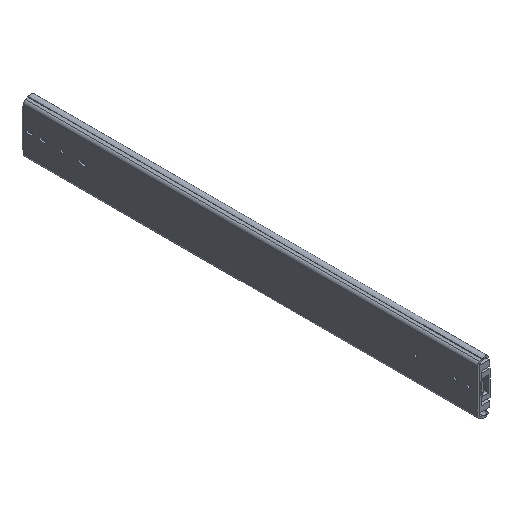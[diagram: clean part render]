
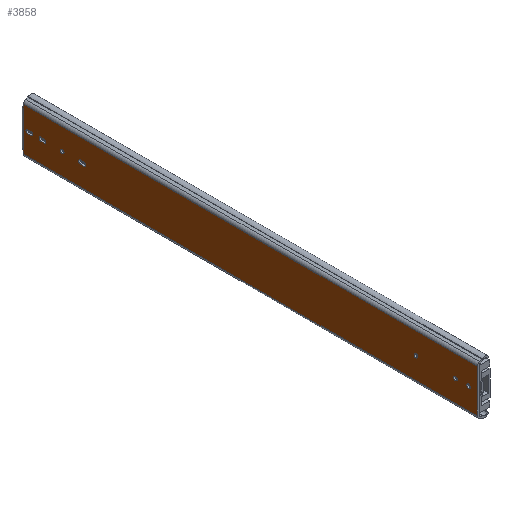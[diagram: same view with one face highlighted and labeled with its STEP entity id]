
A CAD part, isometric view. The second image highlights one B-rep face of the part: STEP entity #3858.
In plain terms, the highlighted planar face has unit normal (-1, 0, 0).
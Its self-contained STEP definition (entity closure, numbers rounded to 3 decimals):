
#343=LINE('',#6565,#726);
#350=LINE('',#6594,#733);
#351=LINE('',#6599,#734);
#366=LINE('',#6646,#749);
#373=LINE('',#6671,#756);
#383=LINE('',#6700,#766);
#386=LINE('',#6722,#769);
#390=LINE('',#6734,#773);
#394=LINE('',#6750,#777);
#401=LINE('',#6769,#784);
#404=LINE('',#6778,#787);
#410=LINE('',#6809,#793);
#416=LINE('',#6825,#799);
#417=LINE('',#6827,#800);
#726=VECTOR('',#5431,1000.);
#733=VECTOR('',#5460,1000.);
#734=VECTOR('',#5465,1000.);
#749=VECTOR('',#5510,1000.);
#756=VECTOR('',#5535,1000.);
#766=VECTOR('',#5567,1000.);
#769=VECTOR('',#5590,1000.);
#773=VECTOR('',#5602,1000.);
#777=VECTOR('',#5620,1000.);
#784=VECTOR('',#5635,1000.);
#787=VECTOR('',#5646,1000.);
#793=VECTOR('',#5672,1000.);
#799=VECTOR('',#5692,1000.);
#800=VECTOR('',#5695,1000.);
#907=PLANE('',#4605);
#1961=ORIENTED_EDGE('',*,*,#2562,.F.);
#1962=ORIENTED_EDGE('',*,*,#2521,.T.);
#1963=ORIENTED_EDGE('',*,*,#2525,.F.);
#1964=ORIENTED_EDGE('',*,*,#2560,.T.);
#1965=ORIENTED_EDGE('',*,*,#2539,.T.);
#1966=ORIENTED_EDGE('',*,*,#2537,.T.);
#1967=ORIENTED_EDGE('',*,*,#2534,.T.);
#1968=ORIENTED_EDGE('',*,*,#2531,.T.);
#1969=ORIENTED_EDGE('',*,*,#2514,.F.);
#1970=ORIENTED_EDGE('',*,*,#2511,.F.);
#1971=ORIENTED_EDGE('',*,*,#2520,.F.);
#1972=ORIENTED_EDGE('',*,*,#2517,.F.);
#1973=ORIENTED_EDGE('',*,*,#2507,.F.);
#1974=ORIENTED_EDGE('',*,*,#2505,.F.);
#1975=ORIENTED_EDGE('',*,*,#2503,.F.);
#1976=ORIENTED_EDGE('',*,*,#2546,.F.);
#1977=ORIENTED_EDGE('',*,*,#2563,.T.);
#1978=ORIENTED_EDGE('',*,*,#2487,.F.);
#1979=ORIENTED_EDGE('',*,*,#2552,.T.);
#1980=ORIENTED_EDGE('',*,*,#2435,.T.);
#1981=ORIENTED_EDGE('',*,*,#2502,.T.);
#1982=ORIENTED_EDGE('',*,*,#2449,.F.);
#1983=ORIENTED_EDGE('',*,*,#2474,.F.);
#1984=ORIENTED_EDGE('',*,*,#2451,.T.);
#2435=EDGE_CURVE('',#2857,#2856,#343,.T.);
#2449=EDGE_CURVE('',#2867,#2866,#350,.T.);
#2451=EDGE_CURVE('',#2870,#2869,#351,.T.);
#2474=EDGE_CURVE('',#2870,#2867,#366,.T.);
#2487=EDGE_CURVE('',#2895,#2896,#373,.T.);
#2502=EDGE_CURVE('',#2856,#2866,#383,.T.);
#2503=EDGE_CURVE('',#2904,#2904,#3089,.T.);
#2505=EDGE_CURVE('',#2906,#2906,#3091,.T.);
#2507=EDGE_CURVE('',#2908,#2908,#3093,.T.);
#2511=EDGE_CURVE('',#2912,#2913,#386,.T.);
#2514=EDGE_CURVE('',#2913,#2915,#3096,.T.);
#2517=EDGE_CURVE('',#2915,#2917,#390,.T.);
#2520=EDGE_CURVE('',#2917,#2912,#3098,.T.);
#2521=EDGE_CURVE('',#2918,#2919,#3099,.T.);
#2525=EDGE_CURVE('',#2922,#2919,#394,.T.);
#2531=EDGE_CURVE('',#2925,#2927,#3102,.T.);
#2534=EDGE_CURVE('',#2929,#2925,#401,.T.);
#2537=EDGE_CURVE('',#2931,#2929,#3104,.T.);
#2539=EDGE_CURVE('',#2927,#2931,#404,.T.);
#2546=EDGE_CURVE('',#2938,#2938,#3107,.T.);
#2552=EDGE_CURVE('',#2895,#2857,#410,.T.);
#2560=EDGE_CURVE('',#2922,#2945,#3110,.T.);
#2562=EDGE_CURVE('',#2918,#2945,#416,.T.);
#2563=EDGE_CURVE('',#2869,#2896,#417,.T.);
#2856=VERTEX_POINT('',#6564);
#2857=VERTEX_POINT('',#6566);
#2866=VERTEX_POINT('',#6591);
#2867=VERTEX_POINT('',#6593);
#2869=VERTEX_POINT('',#6598);
#2870=VERTEX_POINT('',#6600);
#2895=VERTEX_POINT('',#6670);
#2896=VERTEX_POINT('',#6672);
#2904=VERTEX_POINT('',#6703);
#2906=VERTEX_POINT('',#6708);
#2908=VERTEX_POINT('',#6713);
#2912=VERTEX_POINT('',#6721);
#2913=VERTEX_POINT('',#6723);
#2915=VERTEX_POINT('',#6729);
#2917=VERTEX_POINT('',#6735);
#2918=VERTEX_POINT('',#6742);
#2919=VERTEX_POINT('',#6743);
#2922=VERTEX_POINT('',#6751);
#2925=VERTEX_POINT('',#6758);
#2927=VERTEX_POINT('',#6762);
#2929=VERTEX_POINT('',#6767);
#2931=VERTEX_POINT('',#6773);
#2938=VERTEX_POINT('',#6794);
#2945=VERTEX_POINT('',#6822);
#3089=CIRCLE('',#4559,2.6);
#3091=CIRCLE('',#4562,2.6);
#3093=CIRCLE('',#4565,2.6);
#3096=CIRCLE('',#4570,2.6);
#3098=CIRCLE('',#4574,2.6);
#3099=CIRCLE('',#4576,2.6);
#3102=CIRCLE('',#4581,2.619);
#3104=CIRCLE('',#4585,2.619);
#3107=CIRCLE('',#4591,2.6);
#3110=CIRCLE('',#4602,2.6);
#3338=EDGE_LOOP('',(#1961,#1962,#1963,#1964));
#3339=EDGE_LOOP('',(#1965,#1966,#1967,#1968));
#3340=EDGE_LOOP('',(#1969,#1970,#1971,#1972));
#3341=EDGE_LOOP('',(#1973));
#3342=EDGE_LOOP('',(#1974));
#3343=EDGE_LOOP('',(#1975));
#3344=EDGE_LOOP('',(#1976));
#3345=EDGE_LOOP('',(#1977,#1978,#1979,#1980,#1981,#1982,#1983,#1984));
#3579=FACE_BOUND('',#3338,.T.);
#3580=FACE_BOUND('',#3339,.T.);
#3581=FACE_BOUND('',#3340,.T.);
#3582=FACE_BOUND('',#3341,.T.);
#3583=FACE_BOUND('',#3342,.T.);
#3584=FACE_BOUND('',#3343,.T.);
#3585=FACE_BOUND('',#3344,.T.);
#3586=FACE_BOUND('',#3345,.T.);
#3858=ADVANCED_FACE('',(#3579,#3580,#3581,#3582,#3583,#3584,#3585,#3586),
#907,.F.);
#4559=AXIS2_PLACEMENT_3D('',#6702,#5570,#5571);
#4562=AXIS2_PLACEMENT_3D('',#6707,#5576,#5577);
#4565=AXIS2_PLACEMENT_3D('',#6712,#5582,#5583);
#4570=AXIS2_PLACEMENT_3D('',#6728,#5596,#5597);
#4574=AXIS2_PLACEMENT_3D('',#6739,#5608,#5609);
#4576=AXIS2_PLACEMENT_3D('',#6741,#5612,#5613);
#4581=AXIS2_PLACEMENT_3D('',#6763,#5629,#5630);
#4585=AXIS2_PLACEMENT_3D('',#6775,#5641,#5642);
#4591=AXIS2_PLACEMENT_3D('',#6793,#5659,#5660);
#4602=AXIS2_PLACEMENT_3D('',#6821,#5687,#5688);
#4605=AXIS2_PLACEMENT_3D('',#6829,#5697,#5698);
#5431=DIRECTION('',(0.,-1.,0.));
#5460=DIRECTION('',(0.,1.,0.));
#5465=DIRECTION('',(0.,1.,0.));
#5510=DIRECTION('',(0.,0.,-1.));
#5535=DIRECTION('',(0.,-1.,0.));
#5567=DIRECTION('',(0.,0.,-1.));
#5570=DIRECTION('',(-1.,0.,0.));
#5571=DIRECTION('',(0.,1.,0.));
#5576=DIRECTION('',(-1.,0.,0.));
#5577=DIRECTION('',(0.,1.,0.));
#5582=DIRECTION('',(-1.,0.,0.));
#5583=DIRECTION('',(0.,1.,0.));
#5590=DIRECTION('',(0.,-1.,0.));
#5596=DIRECTION('',(-1.,0.,0.));
#5597=DIRECTION('',(0.,1.,0.));
#5602=DIRECTION('',(0.,1.,0.));
#5608=DIRECTION('',(-1.,0.,0.));
#5609=DIRECTION('',(0.,-1.,0.));
#5612=DIRECTION('',(1.,0.,0.));
#5613=DIRECTION('',(0.,0.,-1.));
#5620=DIRECTION('',(0.,1.,0.));
#5629=DIRECTION('',(1.,0.,0.));
#5630=DIRECTION('',(0.,0.,-1.));
#5635=DIRECTION('',(0.,1.,0.));
#5641=DIRECTION('',(1.,0.,0.));
#5642=DIRECTION('',(0.,0.,-1.));
#5646=DIRECTION('',(0.,-1.,0.));
#5659=DIRECTION('',(-1.,0.,0.));
#5660=DIRECTION('',(0.,1.,0.));
#5672=DIRECTION('',(0.,0.,-1.));
#5687=DIRECTION('',(1.,0.,0.));
#5688=DIRECTION('',(0.,0.,-1.));
#5692=DIRECTION('',(0.,-1.,0.));
#5695=DIRECTION('',(0.,0.,-1.));
#5697=DIRECTION('',(1.,0.,0.));
#5698=DIRECTION('',(0.,0.,-1.));
#6564=CARTESIAN_POINT('',(0.,656.4,-26.15));
#6565=CARTESIAN_POINT('',(0.,656.9,-26.15));
#6566=CARTESIAN_POINT('',(0.,656.9,-26.15));
#6591=CARTESIAN_POINT('',(0.,656.4,-31.142));
#6593=CARTESIAN_POINT('',(0.,0.,-31.142));
#6594=CARTESIAN_POINT('',(0.,0.,-31.142));
#6598=CARTESIAN_POINT('',(0.,656.4,31.132));
#6599=CARTESIAN_POINT('',(0.,0.,31.132));
#6600=CARTESIAN_POINT('',(0.,0.,31.132));
#6646=CARTESIAN_POINT('',(0.,0.,31.132));
#6670=CARTESIAN_POINT('',(0.,656.9,26.15));
#6671=CARTESIAN_POINT('',(0.,656.9,26.15));
#6672=CARTESIAN_POINT('',(0.,656.4,26.15));
#6700=CARTESIAN_POINT('',(0.,656.4,31.132));
#6702=CARTESIAN_POINT('',(0.,31.75,-0.006));
#6703=CARTESIAN_POINT('',(0.,34.35,-0.006));
#6707=CARTESIAN_POINT('',(0.,88.9,-0.006));
#6708=CARTESIAN_POINT('',(0.,91.5,-0.006));
#6712=CARTESIAN_POINT('',(0.,600.1,-0.006));
#6713=CARTESIAN_POINT('',(0.,602.7,-0.006));
#6721=CARTESIAN_POINT('',(0.,573.8,-2.605));
#6722=CARTESIAN_POINT('',(0.,573.8,-2.605));
#6723=CARTESIAN_POINT('',(0.,569.2,-2.605));
#6728=CARTESIAN_POINT('',(0.,569.2,-0.005));
#6729=CARTESIAN_POINT('',(0.,569.2,2.595));
#6734=CARTESIAN_POINT('',(0.,573.8,2.595));
#6735=CARTESIAN_POINT('',(0.,573.8,2.595));
#6739=CARTESIAN_POINT('',(0.,573.8,-0.005));
#6741=CARTESIAN_POINT('',(0.,650.,-0.006));
#6742=CARTESIAN_POINT('',(0.,650.,-2.606));
#6743=CARTESIAN_POINT('',(0.,650.,2.594));
#6750=CARTESIAN_POINT('',(0.,0.,2.594));
#6751=CARTESIAN_POINT('',(0.,645.4,2.594));
#6758=CARTESIAN_POINT('',(0.,631.199,-2.606));
#6762=CARTESIAN_POINT('',(0.,631.199,2.594));
#6763=CARTESIAN_POINT('',(0.,630.881,-0.006));
#6767=CARTESIAN_POINT('',(0.,626.001,-2.606));
#6769=CARTESIAN_POINT('',(0.,0.,-2.606));
#6773=CARTESIAN_POINT('',(0.,626.001,2.594));
#6775=CARTESIAN_POINT('',(0.,626.319,-0.006));
#6778=CARTESIAN_POINT('',(0.,0.,2.594));
#6793=CARTESIAN_POINT('',(0.,12.7,-0.006));
#6794=CARTESIAN_POINT('',(0.,15.3,-0.006));
#6809=CARTESIAN_POINT('',(0.,656.9,26.15));
#6821=CARTESIAN_POINT('',(0.,645.4,-0.006));
#6822=CARTESIAN_POINT('',(0.,645.4,-2.606));
#6825=CARTESIAN_POINT('',(0.,0.,-2.606));
#6827=CARTESIAN_POINT('',(0.,656.4,31.132));
#6829=CARTESIAN_POINT('',(0.,0.,31.132));
